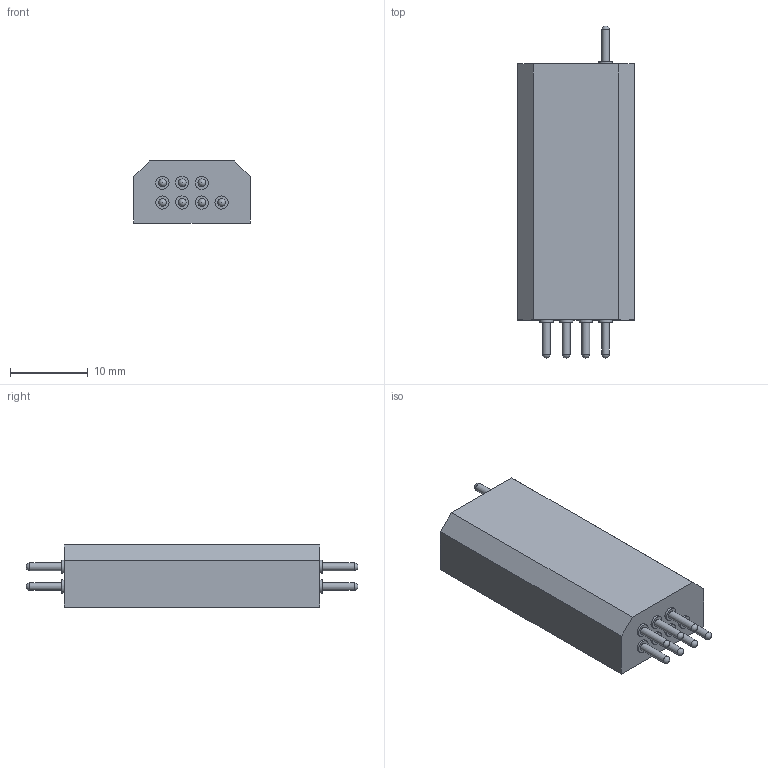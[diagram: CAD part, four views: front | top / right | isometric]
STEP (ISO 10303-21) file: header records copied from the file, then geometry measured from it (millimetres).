
FILE_DESCRIPTION(/* description */ (''),/* implementation_level */ '2;1');
FILE_NAME(/* name */ '\\nt01\DatenF\daten\PRODUKTE\TELEMETR\SV\Mechanik\CAD\3a\Geh_B15xT33xH8\kunde\SV_3a.stp',/* time_stamp */ '2019-09-03T09:12:55+02:00',/* author */ ('dschaefer'),/* organization */ (''),/* preprocessor_version */ 'ST-DEVELOPER v16.5',/* originating_system */ 'Autodesk Inventor 2017',/* authorisation */ '');
FILE_SCHEMA (('AUTOMOTIVE_DESIGN { 1 0 10303 214 3 1 1 }'));
Length unit declared in the file: millimetre
Products named in the file (1): SV_3a
Bounding box: 15 x 42.8 x 8 mm (x, y, z)
Volume: 3865.5 mm3; surface area: 1810.1 mm2
Topology: 1 solids, 1 shells, 44 faces, 90 edges, 57 vertices
Faces by surface type: cylinder 18, plane 17, sphere 9
Full cylindrical faces by diameter (mm): 1 x9, 1.7 x9
Entity records: 1024 total; most frequent: DIRECTION 180, CARTESIAN_POINT 147, ORIENTED_EDGE 108, AXIS2_PLACEMENT_3D 81, EDGE_LOOP 80, EDGE_CURVE 54, VERTEX_POINT 48, STYLED_ITEM 45
